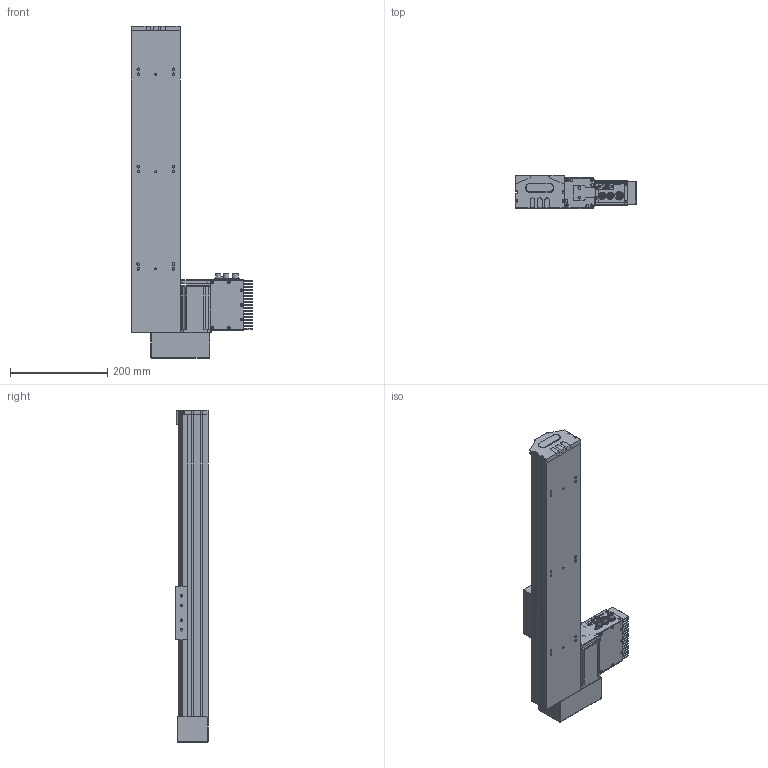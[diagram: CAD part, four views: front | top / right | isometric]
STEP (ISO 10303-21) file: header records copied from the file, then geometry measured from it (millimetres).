
FILE_DESCRIPTION (( 'STEP AP203' ), '1' );
FILE_NAME ('S 10 TSH BR S400.STEP', '2012-09-04T13:24:04', ( 'Conseil Régional Haute-Normandie' ), ( 'Conseil Régional Haute-Normandie' ), 'SwSTEP 2.0', 'SolidWorks 2010', '' );
FILE_SCHEMA (( 'CONFIG_CONTROL_DESIGN' ));
Length unit declared in the file: millimetre
Products named in the file (25): Vis TF 3 torkx; embout_modifié; T_X2_00F4_X0_le contre le moteur_5; Colonnette_3; BU41 Carte Alimentation P05_3; Connecteur rond D12 4cts_5; Connecteur rond D10 3cts_5; Vis TF 3 torkx_1_1; T_X2_00F4_X0_le lat_X2_00E9_X0_rale_5; renvoie LH2_Default; S 10 TSH BR S400; axe620_Default; piece_plastique remplieTSH_Default; remplir_Default; Pièce2_Default; palette tbn2; Assem1_7; BU45 Carte d''axe A11_5; Moteur 60BLDC90A_3; Couvercle_3; T_X2_00F4_X0_le fond_3; Sub D 9cts 90_X2_00B_X0__3; Radiateur profil_X2_00E9_X0_ 100x25_3; Colonnette ronde_3; T_X2_00F4_X0_le Arri_X2_00E8_X0_re_5
Assembly tree (55 placements, depth 3):
  S 10 TSH BR S400
    piece_plastique remplieTSH_Default
      remplir_Default  x3
      Pièce2_Default
      embout_modifié
    Vis TF 3 torkx  x7
    renvoie LH2_Default
    Assem1_7
      Vis TF 3 torkx_1_1  x21
      Colonnette ronde_3
      BU41 Carte Alimentation P05_3
      T_X2_00F4_X0_le lat_X2_00E9_X0_rale_5  x2
      Colonnette_3  x2
      T_X2_00F4_X0_le fond_3
      Couvercle_3
      BU45 Carte d''axe A11_5
      Connecteur rond D10 3cts_5  x2
      T_X2_00F4_X0_le Arri_X2_00E8_X0_re_5
      Moteur 60BLDC90A_3
      Connecteur rond D12 4cts_5
      T_X2_00F4_X0_le contre le moteur_5
      Sub D 9cts 90_X2_00B_X0__3
      Radiateur profil_X2_00E9_X0_ 100x25_3
    palette tbn2
    axe620_Default
Bounding box: 248.66 x 67.24 x 682 mm (x, y, z)
Volume: 3952718.8 mm3; surface area: 612820.2 mm2
Topology: 53 solids, 53 shells, 1961 faces, 4996 edges, 3250 vertices
Faces by surface type: plane 921, cylinder 869, cone 164, sphere 4, torus 3
Entity records: 38429 total; most frequent: CARTESIAN_POINT 6439, DIRECTION 6257, ORIENTED_EDGE 5684, EDGE_CURVE 2842, AXIS2_PLACEMENT_3D 2293, VERTEX_POINT 1862, VECTOR 1671, LINE 1671
